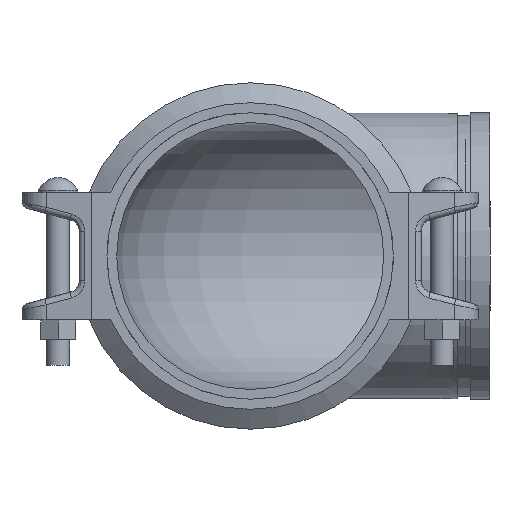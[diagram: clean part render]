
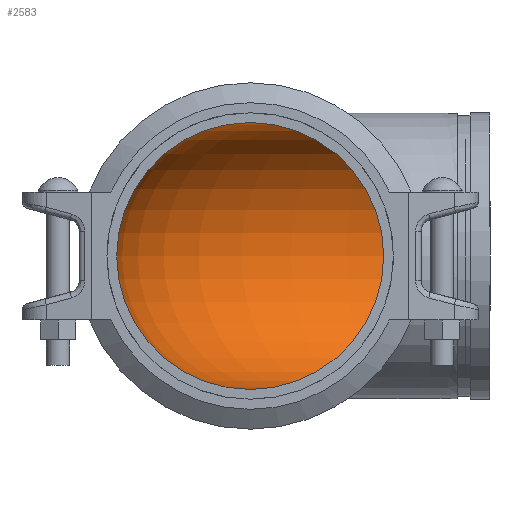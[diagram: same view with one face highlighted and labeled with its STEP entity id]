
A CAD part, left-side view. The second image highlights one B-rep face of the part: STEP entity #2583.
In plain terms, the highlighted toroidal (fillet/blend) face has major radius 205.588 mm and minor radius 127.254 mm.
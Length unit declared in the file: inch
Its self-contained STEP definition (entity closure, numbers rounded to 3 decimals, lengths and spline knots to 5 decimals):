
#102=TOROIDAL_SURFACE('',#2840,8.094,5.01);
#562=FACE_OUTER_BOUND('',#711,.T.);
#711=EDGE_LOOP('',(#1655,#1656,#1657,#1658,#1659,#1660));
#881=CIRCLE('',#2837,5.01);
#882=CIRCLE('',#2838,5.01);
#884=CIRCLE('',#2841,5.01);
#885=CIRCLE('',#2842,3.084);
#886=CIRCLE('',#2843,5.01);
#1019=VERTEX_POINT('',#4224);
#1020=VERTEX_POINT('',#4225);
#1022=VERTEX_POINT('',#4232);
#1023=VERTEX_POINT('',#4233);
#1269=EDGE_CURVE('',#1019,#1020,#881,.T.);
#1270=EDGE_CURVE('',#1020,#1019,#882,.T.);
#1273=EDGE_CURVE('',#1022,#1023,#884,.T.);
#1274=EDGE_CURVE('',#1023,#1020,#885,.T.);
#1275=EDGE_CURVE('',#1023,#1022,#886,.T.);
#1655=ORIENTED_EDGE('',*,*,#1273,.T.);
#1656=ORIENTED_EDGE('',*,*,#1274,.T.);
#1657=ORIENTED_EDGE('',*,*,#1269,.F.);
#1658=ORIENTED_EDGE('',*,*,#1270,.F.);
#1659=ORIENTED_EDGE('',*,*,#1274,.F.);
#1660=ORIENTED_EDGE('',*,*,#1275,.T.);
#2583=ADVANCED_FACE('',(#562),#102,.F.);
#2837=AXIS2_PLACEMENT_3D('',#4226,#3168,#3169);
#2838=AXIS2_PLACEMENT_3D('',#4227,#3170,#3171);
#2840=AXIS2_PLACEMENT_3D('',#4231,#3175,#3176);
#2841=AXIS2_PLACEMENT_3D('',#4234,#3177,#3178);
#2842=AXIS2_PLACEMENT_3D('',#4235,#3179,#3180);
#2843=AXIS2_PLACEMENT_3D('',#4236,#3181,#3182);
#3168=DIRECTION('center_axis',(0.,1.,0.));
#3169=DIRECTION('ref_axis',(1.,0.,0.));
#3170=DIRECTION('center_axis',(0.,1.,0.));
#3171=DIRECTION('ref_axis',(1.,0.,0.));
#3175=DIRECTION('center_axis',(0.,0.,1.));
#3176=DIRECTION('ref_axis',(1.,0.,0.));
#3177=DIRECTION('center_axis',(1.,0.,0.));
#3178=DIRECTION('ref_axis',(0.,-1.,0.));
#3179=DIRECTION('center_axis',(0.,0.,1.));
#3180=DIRECTION('ref_axis',(1.,0.,0.));
#3181=DIRECTION('center_axis',(1.,0.,0.));
#3182=DIRECTION('ref_axis',(0.,-1.,0.));
#4224=CARTESIAN_POINT('',(-5.01,-8.094,0.));
#4225=CARTESIAN_POINT('',(5.01,-8.094,0.));
#4226=CARTESIAN_POINT('Origin',(0.,-8.094,
0.));
#4227=CARTESIAN_POINT('Origin',(0.,-8.094,
0.));
#4231=CARTESIAN_POINT('Origin',(8.094,-8.094,0.));
#4232=CARTESIAN_POINT('',(8.094,5.01,0.));
#4233=CARTESIAN_POINT('',(8.094,-5.01,0.));
#4234=CARTESIAN_POINT('Origin',(8.094,0.,0.));
#4235=CARTESIAN_POINT('Origin',(8.094,-8.094,0.));
#4236=CARTESIAN_POINT('Origin',(8.094,0.,0.));
